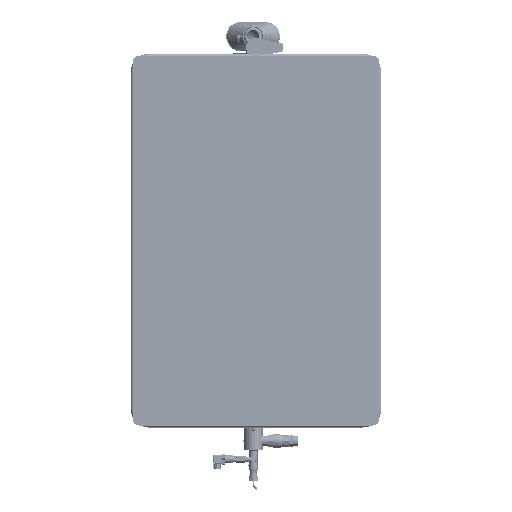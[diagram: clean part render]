
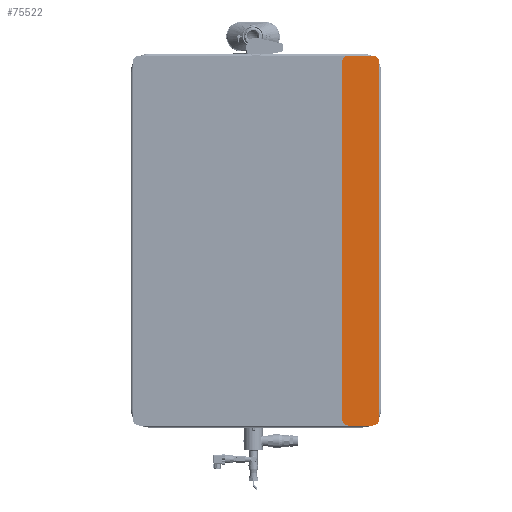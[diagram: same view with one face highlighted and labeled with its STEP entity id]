
A CAD part, front view. The second image highlights one B-rep face of the part: STEP entity #75522.
In plain terms, the highlighted planar face has unit normal (0, -1, 0).
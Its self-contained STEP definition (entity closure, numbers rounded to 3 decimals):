
#3564=LINE('',#235023,#8646);
#3673=LINE('',#235372,#8755);
#3692=LINE('',#235406,#8774);
#3694=LINE('',#235410,#8776);
#8646=VECTOR('',#95006,1160.);
#8755=VECTOR('',#95325,1160.);
#8774=VECTOR('',#95372,80.);
#8776=VECTOR('',#95378,80.);
#14421=PLANE('',#81161);
#17745=FACE_OUTER_BOUND('',#22302,.T.);
#22302=EDGE_LOOP('',(#60886,#60887,#60888,#60889,#60890,#60891,#60892,#60893));
#28283=CIRCLE('',#81085,20.);
#28293=CIRCLE('',#81102,20.);
#28311=CIRCLE('',#81138,20.);
#28312=CIRCLE('',#81162,20.);
#33722=VERTEX_POINT('',#235017);
#33724=VERTEX_POINT('',#235021);
#33815=VERTEX_POINT('',#235213);
#33825=VERTEX_POINT('',#235247);
#33857=VERTEX_POINT('',#235349);
#33858=VERTEX_POINT('',#235350);
#33859=VERTEX_POINT('',#235370);
#33860=VERTEX_POINT('',#235405);
#43046=EDGE_CURVE('',#33722,#33724,#3564,.T.);
#43142=EDGE_CURVE('',#33815,#33724,#28283,.T.);
#43158=EDGE_CURVE('',#33722,#33825,#28293,.T.);
#43210=EDGE_CURVE('',#33857,#33858,#28311,.T.);
#43222=EDGE_CURVE('',#33857,#33859,#3673,.T.);
#43241=EDGE_CURVE('',#33860,#33825,#3692,.T.);
#43243=EDGE_CURVE('',#33860,#33859,#28312,.T.);
#43244=EDGE_CURVE('',#33858,#33815,#3694,.T.);
#60886=ORIENTED_EDGE('',*,*,#43243,.F.);
#60887=ORIENTED_EDGE('',*,*,#43241,.T.);
#60888=ORIENTED_EDGE('',*,*,#43158,.F.);
#60889=ORIENTED_EDGE('',*,*,#43046,.T.);
#60890=ORIENTED_EDGE('',*,*,#43142,.F.);
#60891=ORIENTED_EDGE('',*,*,#43244,.F.);
#60892=ORIENTED_EDGE('',*,*,#43210,.F.);
#60893=ORIENTED_EDGE('',*,*,#43222,.T.);
#75522=ADVANCED_FACE('',(#17745),#14421,.T.);
#81085=AXIS2_PLACEMENT_3D('',#235215,#95150,#95151);
#81102=AXIS2_PLACEMENT_3D('',#235248,#95190,#95191);
#81138=AXIS2_PLACEMENT_3D('',#235351,#95296,#95297);
#81161=AXIS2_PLACEMENT_3D('',#235408,#95374,#95375);
#81162=AXIS2_PLACEMENT_3D('',#235409,#95376,#95377);
#95006=DIRECTION('',(0.,0.,1.));
#95150=DIRECTION('center_axis',(0.,1.,0.));
#95151=DIRECTION('ref_axis',(0.707,0.,0.707));
#95190=DIRECTION('center_axis',(0.,1.,0.));
#95191=DIRECTION('ref_axis',(0.707,0.,-0.707));
#95296=DIRECTION('center_axis',(0.,1.,0.));
#95297=DIRECTION('ref_axis',(-0.707,0.,0.707));
#95325=DIRECTION('',(0.,0.,-1.));
#95372=DIRECTION('',(1.,0.,0.));
#95374=DIRECTION('center_axis',(0.,-1.,0.));
#95375=DIRECTION('ref_axis',(0.,0.,-1.));
#95376=DIRECTION('center_axis',(0.,1.,0.));
#95377=DIRECTION('ref_axis',(-0.707,0.,-0.707));
#95378=DIRECTION('',(1.,0.,0.));
#235017=CARTESIAN_POINT('',(500.,0.,-1180.));
#235021=CARTESIAN_POINT('',(500.,0.,-20.));
#235023=CARTESIAN_POINT('',(500.,0.,-1200.));
#235213=CARTESIAN_POINT('',(480.,0.,0.));
#235215=CARTESIAN_POINT('Origin',(480.,0.,-20.));
#235247=CARTESIAN_POINT('',(480.,0.,-1200.));
#235248=CARTESIAN_POINT('Origin',(480.,0.,-1180.));
#235349=CARTESIAN_POINT('',(380.,0.,-20.));
#235350=CARTESIAN_POINT('',(400.,0.,0.));
#235351=CARTESIAN_POINT('Origin',(400.,0.,-20.));
#235370=CARTESIAN_POINT('',(380.,0.,-1180.));
#235372=CARTESIAN_POINT('',(380.,0.,-600.));
#235405=CARTESIAN_POINT('',(400.,0.,-1200.));
#235406=CARTESIAN_POINT('',(355.,0.,-1200.));
#235408=CARTESIAN_POINT('Origin',(-75.,0.,-1200.));
#235409=CARTESIAN_POINT('Origin',(400.,0.,-1180.));
#235410=CARTESIAN_POINT('',(355.,0.,0.));
